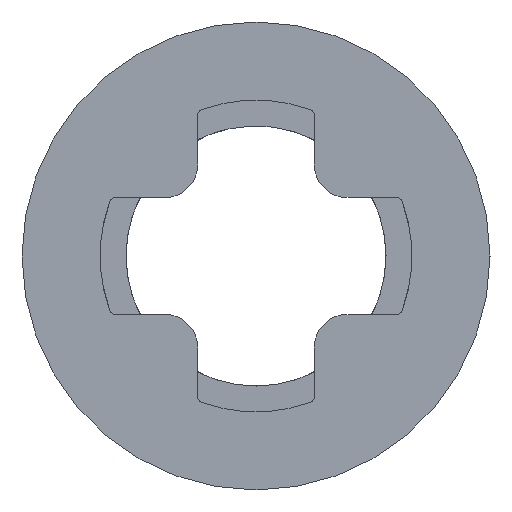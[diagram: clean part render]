
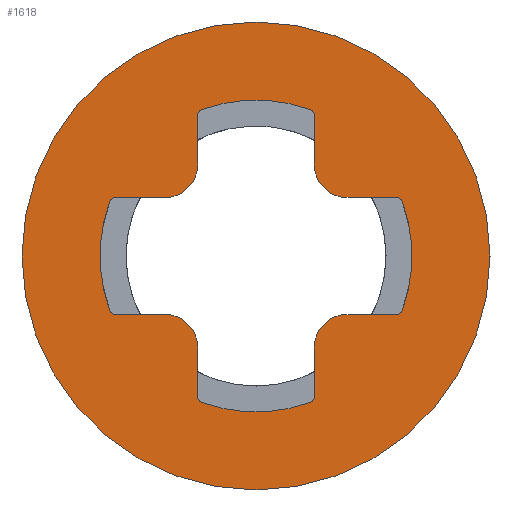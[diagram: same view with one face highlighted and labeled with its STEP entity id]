
A CAD part, left-side view. The second image highlights one B-rep face of the part: STEP entity #1618.
In plain terms, the highlighted planar face has unit normal (-1, 0, 0).
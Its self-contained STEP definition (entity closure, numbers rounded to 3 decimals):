
#38=PLANE('',#1755);
#105=CIRCLE('',#1756,0.1);
#106=CIRCLE('',#1757,2.4);
#107=CIRCLE('',#1758,0.1);
#108=CIRCLE('',#1759,0.5);
#109=CIRCLE('',#1760,0.1);
#110=CIRCLE('',#1761,2.4);
#111=CIRCLE('',#1762,0.1);
#112=CIRCLE('',#1763,0.5);
#113=CIRCLE('',#1764,0.1);
#114=CIRCLE('',#1765,2.4);
#115=CIRCLE('',#1766,0.1);
#116=CIRCLE('',#1767,0.5);
#117=CIRCLE('',#1768,0.1);
#118=CIRCLE('',#1769,2.4);
#119=CIRCLE('',#1770,0.1);
#120=CIRCLE('',#1771,0.5);
#121=CIRCLE('',#1772,3.6);
#194=LINE('',#2622,#322);
#195=LINE('',#2631,#323);
#196=LINE('',#2635,#324);
#197=LINE('',#2643,#325);
#198=LINE('',#2647,#326);
#199=LINE('',#2655,#327);
#200=LINE('',#2659,#328);
#201=LINE('',#2667,#329);
#322=VECTOR('',#2019,1000.);
#323=VECTOR('',#2026,1000.);
#324=VECTOR('',#2029,1000.);
#325=VECTOR('',#2036,1000.);
#326=VECTOR('',#2039,1000.);
#327=VECTOR('',#2046,1000.);
#328=VECTOR('',#2049,1000.);
#329=VECTOR('',#2056,1000.);
#510=ORIENTED_EDGE('',*,*,#998,.T.);
#511=ORIENTED_EDGE('',*,*,#999,.T.);
#512=ORIENTED_EDGE('',*,*,#1000,.T.);
#513=ORIENTED_EDGE('',*,*,#1001,.T.);
#514=ORIENTED_EDGE('',*,*,#1002,.T.);
#515=ORIENTED_EDGE('',*,*,#1003,.T.);
#516=ORIENTED_EDGE('',*,*,#1004,.T.);
#517=ORIENTED_EDGE('',*,*,#1005,.T.);
#518=ORIENTED_EDGE('',*,*,#1006,.T.);
#519=ORIENTED_EDGE('',*,*,#1007,.T.);
#520=ORIENTED_EDGE('',*,*,#1008,.T.);
#521=ORIENTED_EDGE('',*,*,#1009,.T.);
#522=ORIENTED_EDGE('',*,*,#1010,.T.);
#523=ORIENTED_EDGE('',*,*,#1011,.T.);
#524=ORIENTED_EDGE('',*,*,#1012,.T.);
#525=ORIENTED_EDGE('',*,*,#1013,.T.);
#526=ORIENTED_EDGE('',*,*,#1014,.T.);
#527=ORIENTED_EDGE('',*,*,#1015,.T.);
#528=ORIENTED_EDGE('',*,*,#1016,.T.);
#529=ORIENTED_EDGE('',*,*,#1017,.T.);
#530=ORIENTED_EDGE('',*,*,#1018,.T.);
#531=ORIENTED_EDGE('',*,*,#1019,.T.);
#532=ORIENTED_EDGE('',*,*,#1020,.T.);
#533=ORIENTED_EDGE('',*,*,#1021,.T.);
#534=ORIENTED_EDGE('',*,*,#1022,.T.);
#998=EDGE_CURVE('',#1239,#1240,#194,.T.);
#999=EDGE_CURVE('',#1240,#1241,#105,.F.);
#1000=EDGE_CURVE('',#1241,#1242,#106,.T.);
#1001=EDGE_CURVE('',#1242,#1243,#107,.F.);
#1002=EDGE_CURVE('',#1243,#1244,#195,.T.);
#1003=EDGE_CURVE('',#1244,#1245,#108,.T.);
#1004=EDGE_CURVE('',#1245,#1246,#196,.T.);
#1005=EDGE_CURVE('',#1246,#1247,#109,.F.);
#1006=EDGE_CURVE('',#1247,#1248,#110,.T.);
#1007=EDGE_CURVE('',#1248,#1249,#111,.F.);
#1008=EDGE_CURVE('',#1249,#1250,#197,.T.);
#1009=EDGE_CURVE('',#1250,#1251,#112,.T.);
#1010=EDGE_CURVE('',#1251,#1252,#198,.T.);
#1011=EDGE_CURVE('',#1252,#1253,#113,.F.);
#1012=EDGE_CURVE('',#1253,#1254,#114,.T.);
#1013=EDGE_CURVE('',#1254,#1255,#115,.F.);
#1014=EDGE_CURVE('',#1255,#1256,#199,.T.);
#1015=EDGE_CURVE('',#1256,#1257,#116,.T.);
#1016=EDGE_CURVE('',#1257,#1258,#200,.T.);
#1017=EDGE_CURVE('',#1258,#1259,#117,.F.);
#1018=EDGE_CURVE('',#1259,#1260,#118,.T.);
#1019=EDGE_CURVE('',#1260,#1261,#119,.F.);
#1020=EDGE_CURVE('',#1261,#1262,#201,.T.);
#1021=EDGE_CURVE('',#1262,#1239,#120,.T.);
#1022=EDGE_CURVE('',#1263,#1263,#121,.T.);
#1239=VERTEX_POINT('',#2623);
#1240=VERTEX_POINT('',#2624);
#1241=VERTEX_POINT('',#2626);
#1242=VERTEX_POINT('',#2628);
#1243=VERTEX_POINT('',#2630);
#1244=VERTEX_POINT('',#2632);
#1245=VERTEX_POINT('',#2634);
#1246=VERTEX_POINT('',#2636);
#1247=VERTEX_POINT('',#2638);
#1248=VERTEX_POINT('',#2640);
#1249=VERTEX_POINT('',#2642);
#1250=VERTEX_POINT('',#2644);
#1251=VERTEX_POINT('',#2646);
#1252=VERTEX_POINT('',#2648);
#1253=VERTEX_POINT('',#2650);
#1254=VERTEX_POINT('',#2652);
#1255=VERTEX_POINT('',#2654);
#1256=VERTEX_POINT('',#2656);
#1257=VERTEX_POINT('',#2658);
#1258=VERTEX_POINT('',#2660);
#1259=VERTEX_POINT('',#2662);
#1260=VERTEX_POINT('',#2664);
#1261=VERTEX_POINT('',#2666);
#1262=VERTEX_POINT('',#2668);
#1263=VERTEX_POINT('',#2671);
#1370=EDGE_LOOP('',(#510,#511,#512,#513,#514,#515,#516,#517,#518,#519,#520,
#521,#522,#523,#524,#525,#526,#527,#528,#529,#530,#531,#532,#533));
#1371=EDGE_LOOP('',(#534));
#1478=FACE_BOUND('',#1370,.T.);
#1479=FACE_BOUND('',#1371,.T.);
#1618=ADVANCED_FACE('',(#1478,#1479),#38,.T.);
#1755=AXIS2_PLACEMENT_3D('',#2621,#2017,#2018);
#1756=AXIS2_PLACEMENT_3D('',#2625,#2020,#2021);
#1757=AXIS2_PLACEMENT_3D('',#2627,#2022,#2023);
#1758=AXIS2_PLACEMENT_3D('',#2629,#2024,#2025);
#1759=AXIS2_PLACEMENT_3D('',#2633,#2027,#2028);
#1760=AXIS2_PLACEMENT_3D('',#2637,#2030,#2031);
#1761=AXIS2_PLACEMENT_3D('',#2639,#2032,#2033);
#1762=AXIS2_PLACEMENT_3D('',#2641,#2034,#2035);
#1763=AXIS2_PLACEMENT_3D('',#2645,#2037,#2038);
#1764=AXIS2_PLACEMENT_3D('',#2649,#2040,#2041);
#1765=AXIS2_PLACEMENT_3D('',#2651,#2042,#2043);
#1766=AXIS2_PLACEMENT_3D('',#2653,#2044,#2045);
#1767=AXIS2_PLACEMENT_3D('',#2657,#2047,#2048);
#1768=AXIS2_PLACEMENT_3D('',#2661,#2050,#2051);
#1769=AXIS2_PLACEMENT_3D('',#2663,#2052,#2053);
#1770=AXIS2_PLACEMENT_3D('',#2665,#2054,#2055);
#1771=AXIS2_PLACEMENT_3D('',#2669,#2057,#2058);
#1772=AXIS2_PLACEMENT_3D('',#2670,#2059,#2060);
#2017=DIRECTION('',(-1.,0.,0.));
#2018=DIRECTION('',(0.,0.,1.));
#2019=DIRECTION('',(0.,0.,1.));
#2020=DIRECTION('',(-1.,0.,0.));
#2021=DIRECTION('',(0.,0.,1.));
#2022=DIRECTION('',(1.,0.,0.));
#2023=DIRECTION('',(0.,0.,-1.));
#2024=DIRECTION('',(-1.,0.,0.));
#2025=DIRECTION('',(0.,0.,1.));
#2026=DIRECTION('',(0.,0.,-1.));
#2027=DIRECTION('',(-1.,0.,0.));
#2028=DIRECTION('',(0.,0.,1.));
#2029=DIRECTION('',(0.,-1.,0.));
#2030=DIRECTION('',(-1.,0.,0.));
#2031=DIRECTION('',(0.,0.,1.));
#2032=DIRECTION('',(1.,0.,0.));
#2033=DIRECTION('',(0.,0.,1.));
#2034=DIRECTION('',(-1.,0.,0.));
#2035=DIRECTION('',(0.,0.,1.));
#2036=DIRECTION('',(0.,1.,0.));
#2037=DIRECTION('',(-1.,0.,0.));
#2038=DIRECTION('',(0.,0.,1.));
#2039=DIRECTION('',(0.,0.,-1.));
#2040=DIRECTION('',(-1.,0.,0.));
#2041=DIRECTION('',(0.,0.,1.));
#2042=DIRECTION('',(1.,0.,0.));
#2043=DIRECTION('',(0.,0.,1.));
#2044=DIRECTION('',(-1.,0.,0.));
#2045=DIRECTION('',(0.,0.,1.));
#2046=DIRECTION('',(0.,0.,1.));
#2047=DIRECTION('',(-1.,0.,0.));
#2048=DIRECTION('',(0.,0.,1.));
#2049=DIRECTION('',(0.,1.,0.));
#2050=DIRECTION('',(-1.,0.,0.));
#2051=DIRECTION('',(0.,0.,1.));
#2052=DIRECTION('',(1.,0.,0.));
#2053=DIRECTION('',(0.,0.,1.));
#2054=DIRECTION('',(-1.,0.,0.));
#2055=DIRECTION('',(0.,0.,1.));
#2056=DIRECTION('',(0.,-1.,0.));
#2057=DIRECTION('',(-1.,0.,0.));
#2058=DIRECTION('',(0.,0.,1.));
#2059=DIRECTION('',(-1.,0.,0.));
#2060=DIRECTION('',(0.,0.,1.));
#2621=CARTESIAN_POINT('',(-8.,0.,3.6));
#2622=CARTESIAN_POINT('',(-8.,0.9,0.9));
#2623=CARTESIAN_POINT('',(-8.,0.9,1.4));
#2624=CARTESIAN_POINT('',(-8.,0.9,2.156));
#2625=CARTESIAN_POINT('',(-8.,0.8,2.156));
#2626=CARTESIAN_POINT('',(-8.,0.835,2.25));
#2627=CARTESIAN_POINT('',(-8.,0.,0.));
#2628=CARTESIAN_POINT('',(-8.,-0.835,2.25));
#2629=CARTESIAN_POINT('',(-8.,-0.8,2.156));
#2630=CARTESIAN_POINT('',(-8.,-0.9,2.156));
#2631=CARTESIAN_POINT('',(-8.,-0.9,2.225));
#2632=CARTESIAN_POINT('',(-8.,-0.9,1.4));
#2633=CARTESIAN_POINT('',(-8.,-1.4,1.4));
#2634=CARTESIAN_POINT('',(-8.,-1.4,0.9));
#2635=CARTESIAN_POINT('',(-8.,-0.9,0.9));
#2636=CARTESIAN_POINT('',(-8.,-2.156,0.9));
#2637=CARTESIAN_POINT('',(-8.,-2.156,0.8));
#2638=CARTESIAN_POINT('',(-8.,-2.25,0.835));
#2639=CARTESIAN_POINT('',(-8.,0.,0.));
#2640=CARTESIAN_POINT('',(-8.,-2.25,-0.835));
#2641=CARTESIAN_POINT('',(-8.,-2.156,-0.8));
#2642=CARTESIAN_POINT('',(-8.,-2.156,-0.9));
#2643=CARTESIAN_POINT('',(-8.,-2.225,-0.9));
#2644=CARTESIAN_POINT('',(-8.,-1.4,-0.9));
#2645=CARTESIAN_POINT('',(-8.,-1.4,-1.4));
#2646=CARTESIAN_POINT('',(-8.,-0.9,-1.4));
#2647=CARTESIAN_POINT('',(-8.,-0.9,-0.9));
#2648=CARTESIAN_POINT('',(-8.,-0.9,-2.156));
#2649=CARTESIAN_POINT('',(-8.,-0.8,-2.156));
#2650=CARTESIAN_POINT('',(-8.,-0.835,-2.25));
#2651=CARTESIAN_POINT('',(-8.,0.,0.));
#2652=CARTESIAN_POINT('',(-8.,0.835,-2.25));
#2653=CARTESIAN_POINT('',(-8.,0.8,-2.156));
#2654=CARTESIAN_POINT('',(-8.,0.9,-2.156));
#2655=CARTESIAN_POINT('',(-8.,0.9,-2.225));
#2656=CARTESIAN_POINT('',(-8.,0.9,-1.4));
#2657=CARTESIAN_POINT('',(-8.,1.4,-1.4));
#2658=CARTESIAN_POINT('',(-8.,1.4,-0.9));
#2659=CARTESIAN_POINT('',(-8.,0.9,-0.9));
#2660=CARTESIAN_POINT('',(-8.,2.156,-0.9));
#2661=CARTESIAN_POINT('',(-8.,2.156,-0.8));
#2662=CARTESIAN_POINT('',(-8.,2.25,-0.835));
#2663=CARTESIAN_POINT('',(-8.,0.,0.));
#2664=CARTESIAN_POINT('',(-8.,2.25,0.835));
#2665=CARTESIAN_POINT('',(-8.,2.156,0.8));
#2666=CARTESIAN_POINT('',(-8.,2.156,0.9));
#2667=CARTESIAN_POINT('',(-8.,2.225,0.9));
#2668=CARTESIAN_POINT('',(-8.,1.4,0.9));
#2669=CARTESIAN_POINT('',(-8.,1.4,1.4));
#2670=CARTESIAN_POINT('',(-8.,0.,0.));
#2671=CARTESIAN_POINT('',(-8.,0.,3.6));
